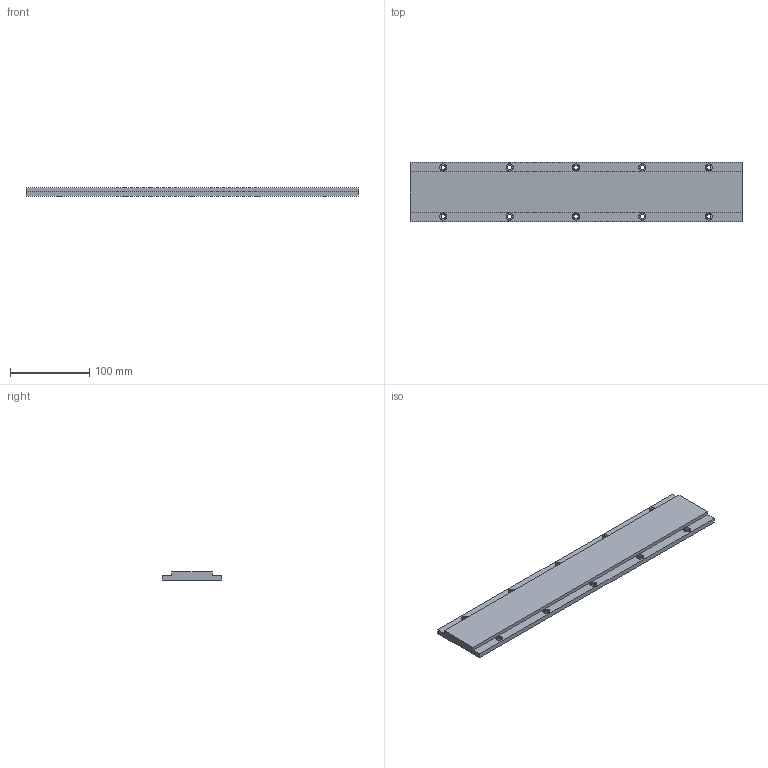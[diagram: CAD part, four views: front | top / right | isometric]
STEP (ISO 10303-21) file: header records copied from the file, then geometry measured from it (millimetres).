
FILE_DESCRIPTION (( 'STEP AP214' ), '1' );
FILE_NAME ('TLS-75-L420¶¨×Ó.STEP', '2021-04-28T08:11:15', ( '' ), ( '' ), 'SwSTEP 2.0', 'SolidWorks 2016', '' );
FILE_SCHEMA (( 'AUTOMOTIVE_DESIGN' ));
Length unit declared in the file: millimetre
Products named in the file (1): TLS-75-L420隅赽
Bounding box: 420 x 75 x 10.5 mm (x, y, z)
Volume: 284112.3 mm3; surface area: 73965 mm2
Topology: 1 solids, 1 shells, 60 faces, 144 edges, 96 vertices
Faces by surface type: cylinder 40, plane 20
Entity records: 1862 total; most frequent: DIRECTION 346, CARTESIAN_POINT 301, ORIENTED_EDGE 288, EDGE_CURVE 144, AXIS2_PLACEMENT_3D 141, VERTEX_POINT 96, EDGE_LOOP 90, CIRCLE 80
